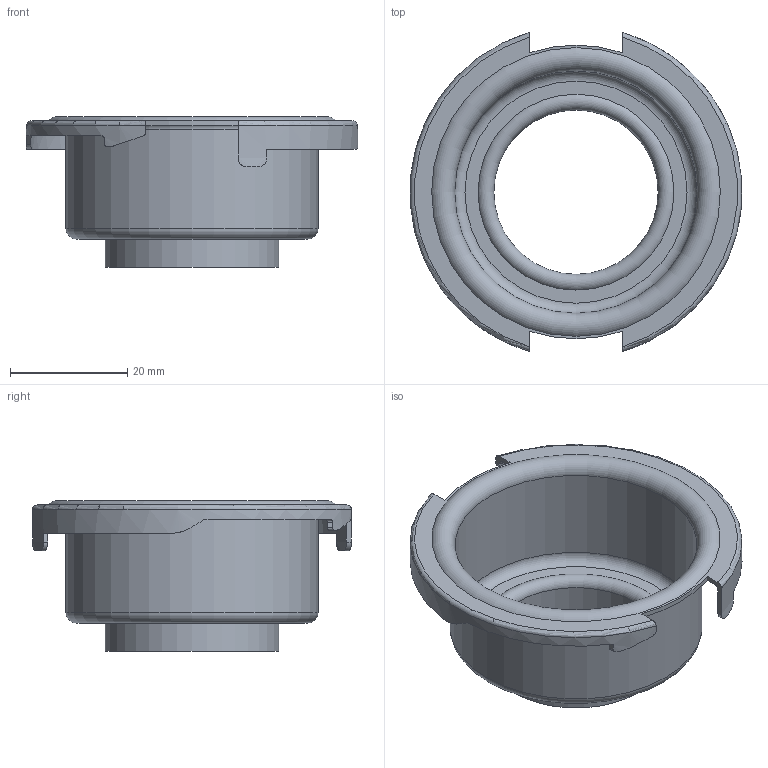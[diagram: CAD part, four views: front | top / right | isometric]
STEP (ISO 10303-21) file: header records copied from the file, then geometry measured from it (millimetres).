
FILE_DESCRIPTION(/* description */ ('203 SS Shell'),/* implementation_level */ '2;1');
FILE_NAME(/* name */ '203-SS.step',/* time_stamp */ '2026-05-08T10:03:13-05:00',/* author */ (''),/* organization */ (''),/* preprocessor_version */ 'ST-DEVELOPER v20.1',/* originating_system */ 'Autodesk Translation Framework v15.8.0.0',/* authorisation */ '');
FILE_SCHEMA (('AUTOMOTIVE_DESIGN { 1 0 10303 214 3 1 1 }'));
Length unit declared in the file: millimetre
Products named in the file (1): 203-SS
Bounding box: 56.58 x 54.34 x 25.7 mm (x, y, z)
Volume: 4312.1 mm3; surface area: 10579.4 mm2
Topology: 1 solids, 1 shells, 59 faces, 156 edges, 102 vertices
Faces by surface type: plane 25, cylinder 22, torus 10, bspline 2
Full cylindrical faces by diameter (mm): 28 x1, 29.626 x1, 41.34 x1, 42.966 x1
Entity records: 2227 total; most frequent: CARTESIAN_POINT 756, ORIENTED_EDGE 312, DIRECTION 288, EDGE_CURVE 156, AXIS2_PLACEMENT_3D 114, VERTEX_POINT 102, EDGE_LOOP 64, LINE 60
